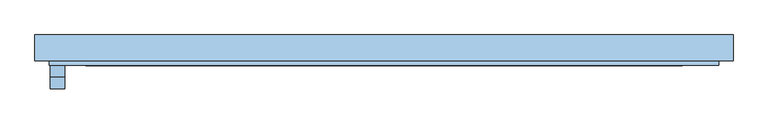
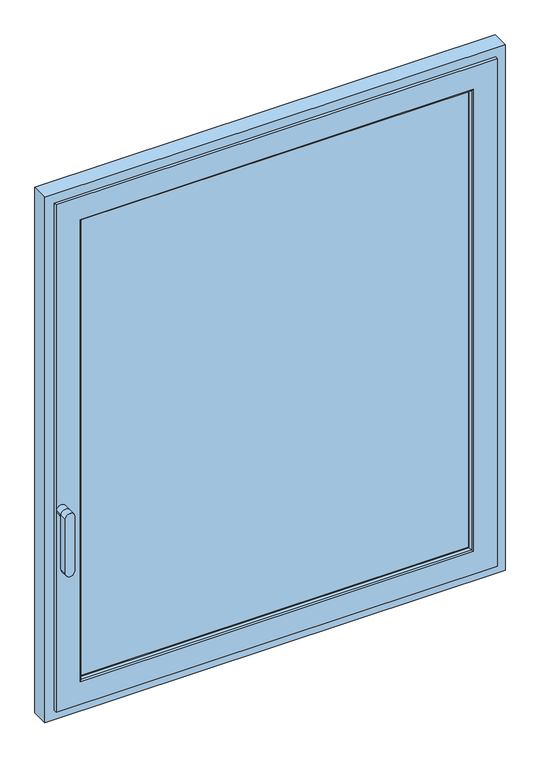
"""IFC4 building model written with IfcOpenShell, lengths in millimetres: window geometry, Single sash-T&T : Single sash-T&T."""

from ifc_helpers import new_model, si_unit, frame, origin, place, context, project, spatial, polyline, circle_curve, ellipse_curve, outline, extrude, faceted_brep, source, transform, mapped, element, save
from ifc_brep_helpers import plane_surface, cylinder_surface, advanced_brep


def window_5c2f0b1a(model_context):
    return source(origin(), model_context, "Body", "SolidModel", [
        advanced_brep(
        [(-578.6, -64.9916685, 1394.0), (-578.6, -64.9916685, 1244.0), (-553.6, -64.9916685, 1244.0), (-553.6, -64.9916685, 1394.0), (-553.6, -44.9916685, 1394.0), (-553.6, -44.9916685, 1244.0), (-578.6, -44.9916685, 1244.0), (-578.6, -44.9916685, 1394.0), (-578.6, -24.9916685, 1394.0), (-553.6, -24.9916685, 1394.0)],
        [
            (0, 1),
            (1, 2, circle_curve(frame((-566.1, -64.9916685, 1244.0), z_axis=(0.0, -1.0, 0.0), x_axis=(1.0, 0.0, 0.0)), 12.5)),
            (2, 3),
            (3, 0, circle_curve(frame((-566.1, -64.9916685, 1394.0), z_axis=(0.0, -1.0, 0.0), x_axis=(1.0, 0.0, 0.0)), 12.5)),
            (4, 5),
            (5, 6, circle_curve(frame((-566.1, -44.9916685, 1244.0), z_axis=(0.0, 1.0, 0.0), x_axis=(1.0, 0.0, 0.0)), 12.5)),
            (6, 7),
            (7, 4, circle_curve(frame((-566.1, -44.9916685, 1394.0), z_axis=(0.0, -1.0, 0.0), x_axis=(1.0, 0.0, 0.0)), 12.5)),
            (0, 7),
            (6, 1),
            (5, 2),
            (4, 3),
            (4, 7, circle_curve(frame((-566.1, -44.9916685, 1394.0), z_axis=(0.0, -1.0, 0.0), x_axis=(1.0, 0.0, 0.0)), 12.5)),
            (8, 9, circle_curve(frame((-566.1, -24.9916685, 1394.0), z_axis=(0.0, 1.0, 0.0), x_axis=(1.0, 0.0, 0.0)), 12.5)),
            (9, 8, circle_curve(frame((-566.1, -24.9916685, 1394.0), z_axis=(0.0, 1.0, 0.0), x_axis=(1.0, 0.0, 0.0)), 12.5)),
            (9, 4),
            (7, 8),
        ],
        [
            plane_surface(frame((-578.6, -64.9916685, 1394.0), z_axis=(0.0, -1.0, 0.0), x_axis=(0.0, 0.0, -1.0))),
            plane_surface(frame((-578.6, -44.9916685, 1394.0), z_axis=(0.0, 1.0, 0.0), x_axis=(0.0, 0.0, 1.0))),
            plane_surface(frame((-578.6, -64.9916685, 1394.0), z_axis=(-1.0, 0.0, 0.0), x_axis=(0.0, 1.0, 0.0))),
            cylinder_surface(frame((-566.1, -44.9916685, 1244.0), z_axis=(0.0, -1.0, 0.0), x_axis=(1.0, 0.0, 0.0)), 12.5),
            plane_surface(frame((-553.6, -64.9916685, 1244.0), z_axis=(1.0, 0.0, 0.0), x_axis=(0.0, 1.0, 0.0))),
            cylinder_surface(frame((-566.1, -44.9916685, 1394.0), z_axis=(0.0, -1.0, 0.0), x_axis=(1.0, 0.0, 0.0)), 12.5),
            plane_surface(frame((-553.6, -24.9916685, 1394.0), z_axis=(0.0, 1.0, 0.0), x_axis=(0.0, 0.0, -1.0))),
            cylinder_surface(frame((-566.1, -24.9916685, 1394.0), z_axis=(0.0, -1.0, 0.0), x_axis=(1.0, 0.0, 0.0)), 12.5),
        ],
        [
            (0, [[1, 2, 3, 4]]),
            (1, [[5, 6, 7, 8]]),
            (2, [[-1, 9, -7, 10]]),
            (3, [[-2, -10, -6, 11]]),
            (4, [[-3, -11, -5, 12]]),
            (5, [[-4, -12, 13, -9]]),
            (6, [[14, 15]]),
            (7, [[-15, 16, -8, 17]]),
            (7, [[-14, -17, -13, -16]]),
        ],
    ),
        extrude(outline(polyline([(-526.5033655, 12.9434496), (526.5033655, 12.9434496), (526.5033655, -11.0565504), (-526.5033655, -11.0565504), (-526.5033655, 12.9434496)])), frame((0.0, 0.0, 888.4966345), z_axis=(0.0, 0.0, 1.0), x_axis=(1.0, 0.0, 0.0)), (0.0, 0.0, 1.0), 1303.006731),
        advanced_brep(
        [(513.2794983, -22.8250073, 2178.2794983), (511.499977, -15.4916685, 2176.499977), (511.499977, -15.4916685, 903.500023), (513.2794983, -22.8250073, 901.7205017), (511.499977, -11.0565504, 2176.499977), (511.499977, -11.0565504, 903.500023), (-511.499977, -15.4916685, 903.500023), (-513.2794983, -22.8250073, 901.7205017), (516.834617, -24.9916685, 2181.834617), (516.834617, -24.9916685, 898.165383), (526.5033655, -11.0565504, 888.4966345), (-526.5033655, -11.0565504, 888.4966345), (-526.5033655, -11.0565504, 2191.5033655), (526.5033655, -11.0565504, 2191.5033655), (-511.499977, -11.0565504, 2176.499977), (-511.499977, -11.0565504, 903.500023), (526.5033655, 12.9434496, 2191.5033655), (526.5033655, 12.9434496, 888.4966345), (-526.5033655, 12.9434496, 2191.5033655), (-526.5033655, 12.9434496, 888.4966345), (511.499969, 12.9434496, 903.500031), (-511.499969, 12.9434496, 903.500031), (-511.499969, 12.9434496, 2176.499969), (511.499969, 12.9434496, 2176.499969), (511.499969, 22.5083925, 2176.499969), (511.499969, 22.5083925, 903.500031), (516.999969, 28.0083925, 2181.999969), (516.999969, 28.0083925, 898.000031), (-511.499969, 22.5083925, 903.500031), (546.9999918, 28.0083924, 868.0000082), (-546.9999918, 28.0083924, 868.0000082), (-546.9999918, 28.0083924, 2211.9999918), (546.9999918, 28.0083924, 2211.9999918), (-516.999969, 28.0083924, 2181.999969), (-516.999969, 28.0083924, 898.000031), (546.9999918, 20.0083925, 2211.9999918), (546.9999918, 20.0083925, 868.0000082), (562.4999476, 20.0083925, 852.5000524), (-562.4999476, 20.0083925, 852.5000524), (-562.4999476, 20.0083925, 2227.4999476), (562.4999476, 20.0083925, 2227.4999476), (-546.9999918, 20.0083925, 2211.9999918), (-546.9999918, 20.0083925, 868.0000082), (562.4999476, -17.0, 2227.4999476), (562.4999476, -17.0, 852.5000524), (580.0, -17.0, 835.0), (-580.0, -17.0, 835.0), (-580.0, -17.0, 2245.0), (580.0, -17.0, 2245.0), (-562.4999476, -17.0, 2227.4999476), (-562.4999476, -17.0, 852.5000524), (580.0, -24.9916685, 2245.0), (580.0, -24.9916685, 835.0), (-580.0, -24.9916685, 2245.0), (-580.0, -24.9916685, 835.0), (-516.834617, -24.9916685, 898.165383), (-516.834617, -24.9916685, 2181.834617), (-511.499977, -15.4916685, 2176.499977), (-513.2794983, -22.8250073, 2178.2794983), (-511.499969, 22.5083925, 2176.499969)],
        [
            (0, 1, ellipse_curve(frame((527.499941, -15.4916685, 2192.499941), z_axis=(0.7071067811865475, 0.0, -0.7071067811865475), x_axis=(0.7071067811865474, 0.0, 0.7071067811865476)), 22.6273661, 15.999964)),
            (1, 2),
            (2, 3, ellipse_curve(frame((527.499941, -15.4916685, 887.500059), z_axis=(0.7071067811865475, 0.0, 0.7071067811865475), x_axis=(-0.7071067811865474, 0.0, 0.7071067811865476)), 22.6273661, 15.999964)),
            (3, 0),
            (1, 4),
            (4, 5),
            (5, 2),
            (2, 6),
            (6, 7, ellipse_curve(frame((-527.499941, -15.4916685, 887.500059), z_axis=(0.7071067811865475, 0.0, -0.7071067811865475), x_axis=(0.7071067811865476, 0.0, 0.7071067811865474)), 22.6273661, 15.999964)),
            (7, 3),
            (8, 0, ellipse_curve(frame((516.834617, -20.9916685, 2181.834617), z_axis=(0.7071067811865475, 0.0, -0.7071067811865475), x_axis=(0.7071067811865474, 0.0, 0.7071067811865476)), 5.6568542, 4.0)),
            (3, 9, ellipse_curve(frame((516.834617, -20.9916685, 898.165383), z_axis=(0.7071067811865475, 0.0, 0.7071067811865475), x_axis=(-0.7071067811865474, 0.0, 0.7071067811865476)), 5.6568542, 4.0)),
            (9, 8),
            (10, 11),
            (11, 12),
            (12, 13),
            (13, 10),
            (4, 14),
            (14, 15),
            (15, 5),
            (15, 6),
            (13, 16),
            (16, 17),
            (17, 10),
            (16, 18),
            (18, 19),
            (19, 17),
            (20, 21),
            (21, 22),
            (22, 23),
            (23, 20),
            (19, 11),
            (23, 24),
            (24, 25),
            (25, 20),
            (24, 26, ellipse_curve(frame((516.999969, 22.5083925, 2181.999969), z_axis=(0.7071067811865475, 0.0, -0.7071067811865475), x_axis=(0.7071067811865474, 0.0, 0.7071067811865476)), 7.7781746, 5.5)),
            (26, 27),
            (27, 25, ellipse_curve(frame((516.999969, 22.5083925, 898.000031), z_axis=(0.7071067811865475, 0.0, 0.7071067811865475), x_axis=(-0.7071067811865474, 0.0, 0.7071067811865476)), 7.7781746, 5.5)),
            (25, 28),
            (28, 21),
            (29, 30),
            (30, 31),
            (31, 32),
            (32, 29),
            (26, 33),
            (33, 34),
            (34, 27),
            (34, 28, ellipse_curve(frame((-516.999969, 22.5083925, 898.000031), z_axis=(0.7071067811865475, 0.0, -0.7071067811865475), x_axis=(0.7071067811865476, 0.0, 0.7071067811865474)), 7.7781746, 5.5)),
            (32, 35),
            (35, 36),
            (36, 29),
            (37, 38),
            (38, 39),
            (39, 40),
            (40, 37),
            (35, 41),
            (41, 42),
            (42, 36),
            (42, 30),
            (40, 43),
            (43, 44),
            (44, 37),
            (45, 46),
            (46, 47),
            (47, 48),
            (48, 45),
            (43, 49),
            (49, 50),
            (50, 44),
            (50, 38),
            (48, 51),
            (51, 52),
            (52, 45),
            (51, 53),
            (53, 54),
            (54, 52),
            (9, 55),
            (55, 56),
            (56, 8),
            (54, 46),
            (7, 55, ellipse_curve(frame((-516.834617, -20.9916685, 898.165383), z_axis=(0.7071067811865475, 0.0, -0.7071067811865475), x_axis=(0.7071067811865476, 0.0, 0.7071067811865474)), 5.6568542, 4.0)),
            (6, 57),
            (57, 58, ellipse_curve(frame((-527.499941, -15.4916685, 2192.499941), z_axis=(-0.7071067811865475, 0.0, -0.7071067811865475), x_axis=(0.7071067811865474, 0.0, -0.7071067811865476)), 22.6273661, 15.999964)),
            (58, 7),
            (14, 57),
            (18, 12),
            (28, 59),
            (59, 22),
            (33, 59, ellipse_curve(frame((-516.999969, 22.5083925, 2181.999969), z_axis=(-0.7071067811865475, 0.0, -0.7071067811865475), x_axis=(0.7071067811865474, 0.0, -0.7071067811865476)), 7.7781746, 5.5)),
            (41, 31),
            (49, 39),
            (53, 47),
            (58, 56, ellipse_curve(frame((-516.834617, -20.9916685, 2181.834617), z_axis=(-0.7071067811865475, 0.0, -0.7071067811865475), x_axis=(0.7071067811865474, 0.0, -0.7071067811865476)), 5.6568542, 4.0)),
            (57, 1),
            (0, 58),
            (59, 24),
        ],
        [
            cylinder_surface(frame((527.499941, -15.4916685, 2270.0), z_axis=(0.0, 0.0, 1.0), x_axis=(-1.0, 0.0, 0.0)), 15.999964),
            plane_surface(frame((511.499977, -11.0565504, 2176.499977), z_axis=(-1.0, 0.0, 0.0), x_axis=(0.0, 0.0, -1.0))),
            cylinder_surface(frame((605.0, -15.4916685, 887.500059), z_axis=(1.0, 0.0, 0.0), x_axis=(0.0, 0.0, 1.0)), 15.999964),
            cylinder_surface(frame((516.834617, -20.9916685, 2270.0), z_axis=(0.0, 0.0, 1.0000000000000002), x_axis=(-0.8887804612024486, -0.4583331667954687, 0.0)), 4.0),
            plane_surface(frame((-526.5033655, -11.0565504, 2191.5033655), z_axis=(0.0, 1.0, 0.0), x_axis=(1.0, 0.0, 0.0))),
            plane_surface(frame((511.499977, -11.0565504, 903.500023), z_axis=(0.0, 0.0, 1.0), x_axis=(-1.0, 0.0, 0.0))),
            plane_surface(frame((526.5033655, 12.9434496, 2191.5033655), z_axis=(-1.0, 0.0, 0.0), x_axis=(0.0, 0.0, -1.0))),
            plane_surface(frame((-511.499969, 12.9434496, 2176.499969), z_axis=(0.0, -1.0, 0.0), x_axis=(1.0, 0.0, 0.0))),
            plane_surface(frame((526.5033655, 12.9434496, 888.4966345), z_axis=(0.0, 0.0, 1.0), x_axis=(-1.0, 0.0, 0.0))),
            plane_surface(frame((511.499969, 22.5083925, 2176.499969), z_axis=(-1.0, 0.0, 0.0), x_axis=(0.0, 0.0, -1.0))),
            cylinder_surface(frame((516.999969, 22.5083925, 2270.0), z_axis=(0.0, 0.0, 1.0), x_axis=(0.0, 1.0, 0.0)), 5.5),
            plane_surface(frame((511.499969, 22.5083925, 903.500031), z_axis=(0.0, 0.0, 1.0), x_axis=(-1.0, 0.0, 0.0))),
            plane_surface(frame((-546.9999918, 28.0083924, 2211.9999918), z_axis=(0.0, 1.0, 0.0), x_axis=(1.0, 0.0, 0.0))),
            cylinder_surface(frame((605.0, 22.5083925, 898.000031), z_axis=(1.0, 0.0, 0.0), x_axis=(0.0, 1.0, 0.0)), 5.5),
            plane_surface(frame((546.9999918, 20.0083925, 2211.9999918), z_axis=(1.0, 0.0, 0.0), x_axis=(0.0, 0.0, -1.0))),
            plane_surface(frame((-562.4999476, 20.0083925, 2227.4999476), z_axis=(0.0, 1.0, 0.0), x_axis=(1.0, 0.0, 0.0))),
            plane_surface(frame((546.9999918, 20.0083925, 868.0000082), z_axis=(0.0, 0.0, -1.0), x_axis=(-1.0, 0.0, 0.0))),
            plane_surface(frame((562.4999476, -17.0, 2227.4999476), z_axis=(1.0, 0.0, 0.0), x_axis=(0.0, 0.0, -1.0))),
            plane_surface(frame((-580.0, -17.0, 2245.0), z_axis=(0.0, 1.0, 0.0), x_axis=(1.0, 0.0, 0.0))),
            plane_surface(frame((562.4999476, -17.0, 852.5000524), z_axis=(0.0, 0.0, -1.0), x_axis=(-1.0, 0.0, 0.0))),
            plane_surface(frame((580.0, -24.9916685, 2245.0), z_axis=(1.0, 0.0, 0.0), x_axis=(0.0, 0.0, -1.0))),
            plane_surface(frame((-516.834617, -24.9916685, 2181.834617), z_axis=(0.0, -1.0, 0.0), x_axis=(1.0, 0.0, 0.0))),
            plane_surface(frame((580.0, -24.9916685, 835.0), z_axis=(0.0, 0.0, -1.0), x_axis=(-1.0, 0.0, 0.0))),
            cylinder_surface(frame((605.0, -20.9916685, 898.165383), z_axis=(1.0000000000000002, 0.0, 0.0), x_axis=(0.0, -0.4583331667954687, 0.8887804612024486)), 4.0),
            cylinder_surface(frame((-527.499941, -15.4916685, 810.0), z_axis=(0.0, 0.0, -1.0), x_axis=(1.0, 0.0, 0.0)), 15.999964),
            plane_surface(frame((-511.499977, -11.0565504, 903.500023), z_axis=(1.0, 0.0, 0.0), x_axis=(0.0, 0.0, 1.0))),
            plane_surface(frame((-526.5033655, 12.9434496, 888.4966345), z_axis=(1.0, 0.0, 0.0), x_axis=(0.0, 0.0, 1.0))),
            plane_surface(frame((-511.499969, 22.5083925, 903.500031), z_axis=(1.0, 0.0, 0.0), x_axis=(0.0, 0.0, 1.0))),
            cylinder_surface(frame((-516.999969, 22.5083925, 810.0), z_axis=(0.0, 0.0, -1.0), x_axis=(0.0, 1.0, 0.0)), 5.5),
            plane_surface(frame((-546.9999918, 20.0083925, 868.0000082), z_axis=(-1.0, 0.0, 0.0), x_axis=(0.0, 0.0, 1.0))),
            plane_surface(frame((-562.4999476, -17.0, 852.5000524), z_axis=(-1.0, 0.0, 0.0), x_axis=(0.0, 0.0, 1.0))),
            plane_surface(frame((-580.0, -24.9916685, 835.0), z_axis=(-1.0, 0.0, 0.0), x_axis=(0.0, 0.0, 1.0))),
            cylinder_surface(frame((-516.834617, -20.9916685, 810.0), z_axis=(0.0, 0.0, -1.0000000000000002), x_axis=(0.8887804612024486, -0.4583331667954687, 0.0)), 4.0),
            cylinder_surface(frame((-605.0, -15.4916685, 2192.499941), z_axis=(-1.0, 0.0, 0.0), x_axis=(0.0, 0.0, -1.0)), 15.999964),
            plane_surface(frame((-511.499977, -11.0565504, 2176.499977), z_axis=(0.0, 0.0, -1.0), x_axis=(1.0, 0.0, 0.0))),
            plane_surface(frame((-526.5033655, 12.9434496, 2191.5033655), z_axis=(0.0, 0.0, -1.0), x_axis=(1.0, 0.0, 0.0))),
            plane_surface(frame((-511.499969, 22.5083925, 2176.499969), z_axis=(0.0, 0.0, -1.0), x_axis=(1.0, 0.0, 0.0))),
            cylinder_surface(frame((-605.0, 22.5083925, 2181.999969), z_axis=(-1.0, 0.0, 0.0), x_axis=(0.0, 1.0, 0.0)), 5.5),
            plane_surface(frame((-546.9999918, 20.0083925, 2211.9999918), z_axis=(0.0, 0.0, 1.0), x_axis=(1.0, 0.0, 0.0))),
            plane_surface(frame((-562.4999476, -17.0, 2227.4999476), z_axis=(0.0, 0.0, 1.0), x_axis=(1.0, 0.0, 0.0))),
            plane_surface(frame((-580.0, -24.9916685, 2245.0), z_axis=(0.0, 0.0, 1.0), x_axis=(1.0, 0.0, 0.0))),
            cylinder_surface(frame((-605.0, -20.9916685, 2181.834617), z_axis=(-1.0000000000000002, 0.0, 0.0), x_axis=(0.0, -0.4583331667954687, -0.8887804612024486)), 4.0),
        ],
        [
            (0, [[1, 2, 3, 4]]),
            (1, [[5, 6, 7, -2]]),
            (2, [[-3, 8, 9, 10]]),
            (3, [[11, -4, 12, 13]]),
            (4, [[14, 15, 16, 17], [18, 19, 20, -6]]),
            (5, [[-7, -20, 21, -8]]),
            (6, [[22, 23, 24, -17]]),
            (7, [[25, 26, 27, -23], [28, 29, 30, 31]]),
            (8, [[-24, -27, 32, -14]]),
            (9, [[33, 34, 35, -31]]),
            (10, [[36, 37, 38, -34]]),
            (11, [[-35, 39, 40, -28]]),
            (12, [[41, 42, 43, 44], [45, 46, 47, -37]]),
            (13, [[-38, -47, 48, -39]]),
            (14, [[49, 50, 51, -44]]),
            (15, [[52, 53, 54, 55], [56, 57, 58, -50]]),
            (16, [[-51, -58, 59, -41]]),
            (17, [[60, 61, 62, -55]]),
            (18, [[63, 64, 65, 66], [67, 68, 69, -61]]),
            (19, [[-62, -69, 70, -52]]),
            (20, [[71, 72, 73, -66]]),
            (21, [[74, 75, 76, -72], [77, 78, 79, -13]]),
            (22, [[-73, -76, 80, -63]]),
            (23, [[-12, -10, 81, -77]]),
            (24, [[-9, 82, 83, 84]]),
            (25, [[-21, -19, 85, -82]]),
            (26, [[-32, -26, 86, -15]]),
            (27, [[-40, 87, 88, -29]]),
            (28, [[-48, -46, 89, -87]]),
            (29, [[-59, -57, 90, -42]]),
            (30, [[-70, -68, 91, -53]]),
            (31, [[-80, -75, 92, -64]]),
            (32, [[-81, -84, 93, -78]]),
            (33, [[-83, 94, -1, 95]]),
            (34, [[-85, -18, -5, -94]]),
            (35, [[-86, -25, -22, -16]]),
            (36, [[-88, 96, -33, -30]]),
            (37, [[-89, -45, -36, -96]]),
            (38, [[-90, -56, -49, -43]]),
            (39, [[-91, -67, -60, -54]]),
            (40, [[-92, -74, -71, -65]]),
            (41, [[-93, -95, -11, -79]]),
        ],
    ),
        faceted_brep([(605.0, 28.0, 2270.0), (605.0, -17.0, 2270.0), (605.0, -17.0, 810.0), (605.0, 28.0, 810.0), (-605.0, -17.0, 2270.0), (-605.0, -17.0, 810.0), (574.0, -17.0, 841.0), (-574.0, -17.0, 841.0), (-574.0, -17.0, 2239.0), (574.0, -17.0, 2239.0), (-605.0, 28.0, 810.0), (-605.0, 28.0, 2270.0), (552.0, 28.0, 2217.0), (-552.0, 28.0, 2217.0), (-552.0, 28.0, 863.0), (552.0, 28.0, 863.0), (552.0, 20.0083925, 2217.0), (552.0, 20.0083925, 863.0), (-552.0, 20.0083925, 863.0), (574.0, 20.0083925, 2239.0), (-574.0, 20.0083925, 2239.0), (-574.0, 20.0083925, 841.0), (574.0, 20.0083925, 841.0), (-552.0, 20.0083925, 2217.0)], [[[0, 1, 2, 3]], [[1, 4, 5, 2], [6, 7, 8, 9]], [[3, 2, 5, 10]], [[3, 10, 11, 0], [12, 13, 14, 15]], [[16, 12, 15, 17]], [[17, 15, 14, 18]], [[19, 20, 21, 22], [17, 18, 23, 16]], [[9, 19, 22, 6]], [[6, 22, 21, 7]], [[10, 5, 4, 11]], [[18, 14, 13, 23]], [[7, 21, 20, 8]], [[11, 4, 1, 0]], [[23, 13, 12, 16]], [[8, 20, 19, 9]]]),
    ])


if __name__ == "__main__":
    model = new_model("IFC4")
    model_context = context("Model", 3, world=origin())
    ifc_project = project(units=[si_unit("LENGTHUNIT", "METRE", prefix="MILLI")], contexts=[model_context])
    site = spatial("IfcSite", under=ifc_project)
    building = spatial("IfcBuilding", under=site)
    placement = place(None, origin())
    window_shape = window_5c2f0b1a(model_context)
    element("IfcWindow", 1, ObjectType="Single sash-T&T : Single sash-T&T", at=placement, inside=building, context=model_context, shape_type="MappedRepresentation", body=[
        mapped(window_shape, transform((0.0, 0.0, 0.0), x_axis=(1.0, 0.0, 0.0), y_axis=(0.0, 1.0, 0.0), z_axis=(0.0, 0.0, 1.0))),
    ])
    save(model, "model.ifc")
